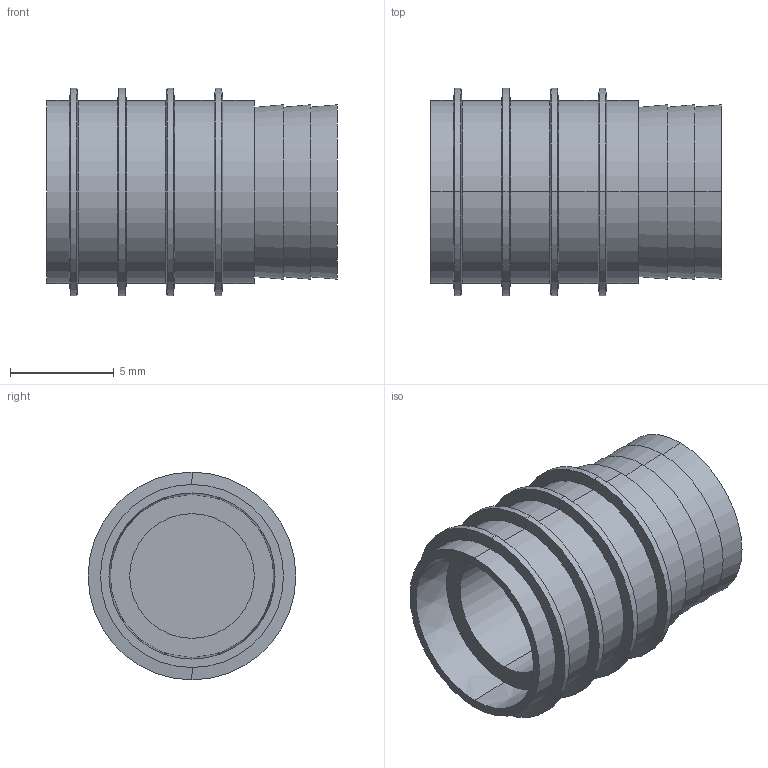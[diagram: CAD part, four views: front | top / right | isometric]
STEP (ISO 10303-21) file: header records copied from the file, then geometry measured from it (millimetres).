
FILE_DESCRIPTION (( 'STEP AP214' ), '1' );
FILE_NAME ('BR942-10.STEP', '2020-06-23T10:10:57', ( '' ), ( '' ), 'SwSTEP 2.0', 'SolidWorks 2018', '' );
FILE_SCHEMA (( 'AUTOMOTIVE_DESIGN' ));
Length unit declared in the file: millimetre
Products named in the file (1): BR942-10
Bounding box: 14 x 10 x 10 mm (x, y, z)
Volume: 639 mm3; surface area: 769.6 mm2
Topology: 1 solids, 1 shells, 51 faces, 100 edges, 56 vertices
Faces by surface type: cone 24, cylinder 20, plane 7
Entity records: 1328 total; most frequent: DIRECTION 260, CARTESIAN_POINT 208, ORIENTED_EDGE 200, AXIS2_PLACEMENT_3D 108, EDGE_CURVE 100, EDGE_LOOP 56, VERTEX_POINT 56, CIRCLE 56
